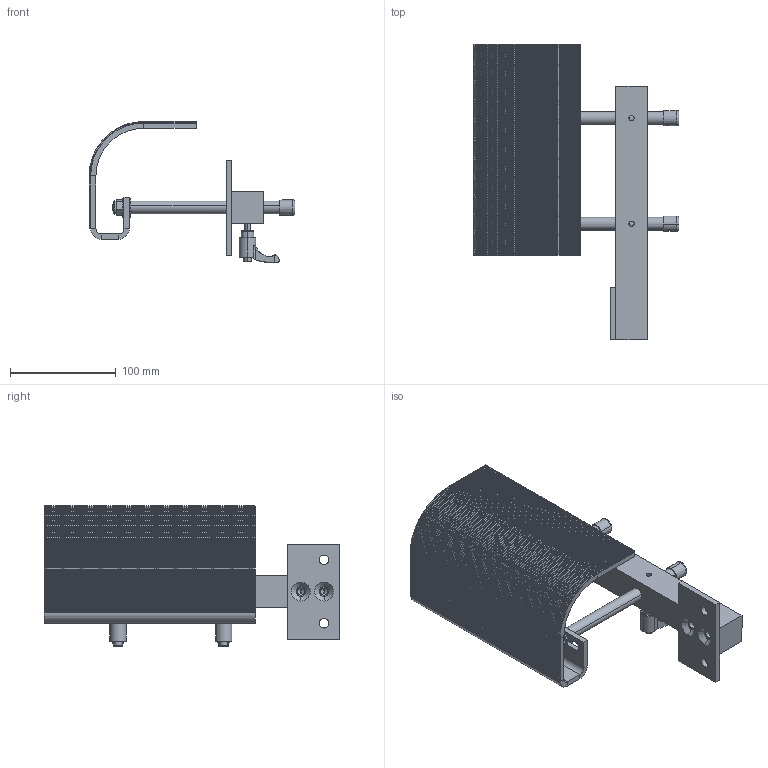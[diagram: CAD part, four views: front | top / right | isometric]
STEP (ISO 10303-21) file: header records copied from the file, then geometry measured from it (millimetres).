
FILE_DESCRIPTION (( 'STEP AP214' ), '1' );
FILE_NAME ('BUTEE PIVOT.STEP', '2017-04-06T09:04:53', ( '' ), ( '' ), 'SwSTEP 2.0', 'SolidWorks 2016', '' );
FILE_SCHEMA (( 'AUTOMOTIVE_DESIGN' ));
Length unit declared in the file: millimetre
Products named in the file (10): BUTEE PIVOT; Plaque support; Pivot butée tôle; Axe butée tôle; ECROU FREIN M8; EMBOUT CC D12 Butée pivot; Poignée butée_Default<Brut d''usinage>; Support vertical butée tôle; Rondelle M8; Revêtement butée tôle
Assembly tree (16 placements, depth 2):
  BUTEE PIVOT
    Plaque support
    Support vertical butée tôle
    Axe butée tôle  x2
    EMBOUT CC D12 Butée pivot  x2
    Revêtement butée tôle
    Poignée butée_Default<Brut d''usinage>  x2
    Pivot butée tôle
    Rondelle M8  x4
    ECROU FREIN M8  x2
Bounding box: 194.8 x 280 x 133.53 mm (x, y, z)
Volume: 557461.3 mm3; surface area: 264342.7 mm2
Topology: 18 solids, 18 shells, 1520 faces, 3520 edges, 2052 vertices
Faces by surface type: plane 927, cylinder 339, cone 224, torus 30
Entity records: 39789 total; most frequent: CARTESIAN_POINT 7236, DIRECTION 6601, ORIENTED_EDGE 6500, EDGE_CURVE 3250, LINE 2609, VECTOR 2609, AXIS2_PLACEMENT_3D 1996, VERTEX_POINT 1881
